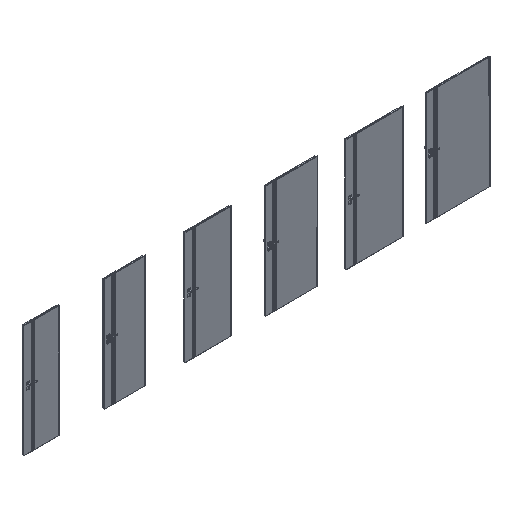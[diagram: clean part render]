
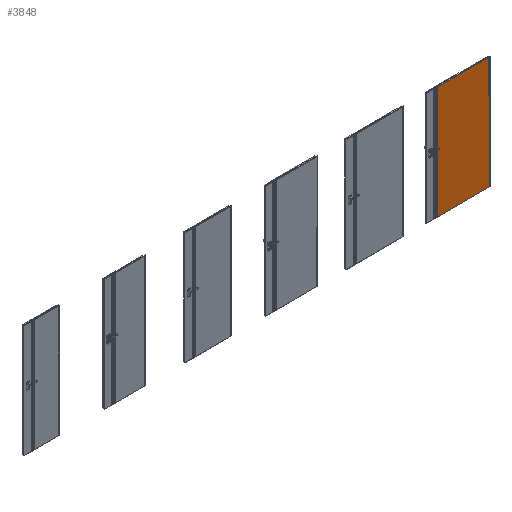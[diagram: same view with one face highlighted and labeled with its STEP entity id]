
A CAD part, isometric view. The second image highlights one B-rep face of the part: STEP entity #3848.
In plain terms, the highlighted planar face has unit normal (0, -1, 0).
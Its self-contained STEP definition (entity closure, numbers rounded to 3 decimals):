
#2504=FACE_OUTER_BOUND('',#6872,.T.);
#3848=ADVANCED_FACE('',(#2504),#4680,.F.);
#4680=PLANE('',#24229);
#6872=EDGE_LOOP('',(#11950,#11951,#11952,#11953));
#11950=ORIENTED_EDGE('',*,*,#18048,.F.);
#11951=ORIENTED_EDGE('',*,*,#18049,.T.);
#11952=ORIENTED_EDGE('',*,*,#18050,.F.);
#11953=ORIENTED_EDGE('',*,*,#18051,.F.);
#15182=VERTEX_POINT('',#41439);
#15183=VERTEX_POINT('',#41440);
#15184=VERTEX_POINT('',#41442);
#15185=VERTEX_POINT('',#41444);
#18048=EDGE_CURVE('',#15182,#15183,#20316,.T.);
#18049=EDGE_CURVE('',#15182,#15184,#20317,.T.);
#18050=EDGE_CURVE('',#15185,#15184,#20318,.T.);
#18051=EDGE_CURVE('',#15183,#15185,#20319,.T.);
#20316=LINE('',#41438,#22176);
#20317=LINE('',#41441,#22177);
#20318=LINE('',#41443,#22178);
#20319=LINE('',#41445,#22179);
#22176=VECTOR('',#29355,1.);
#22177=VECTOR('',#29356,1.);
#22178=VECTOR('',#29357,1.);
#22179=VECTOR('',#29358,1.);
#24229=AXIS2_PLACEMENT_3D('',#41446,#29359,#29360);
#29355=DIRECTION('',(0.,0.,1.));
#29356=DIRECTION('',(1.,0.,0.));
#29357=DIRECTION('',(0.,0.,-1.));
#29358=DIRECTION('',(1.,0.,0.));
#29359=DIRECTION('',(0.,1.,0.));
#29360=DIRECTION('',(-1.,0.,0.));
#41438=CARTESIAN_POINT('',(7119.15,-39.3,0.));
#41439=CARTESIAN_POINT('',(7119.15,-39.3,2.));
#41440=CARTESIAN_POINT('',(7119.15,-39.3,2030.));
#41441=CARTESIAN_POINT('',(7178.,-39.3,2.));
#41442=CARTESIAN_POINT('',(8072.,-39.3,2.));
#41443=CARTESIAN_POINT('',(8072.,-39.3,2030.));
#41444=CARTESIAN_POINT('',(8072.,-39.3,2030.));
#41445=CARTESIAN_POINT('',(7178.,-39.3,2030.));
#41446=CARTESIAN_POINT('',(7178.,-39.3,2030.));
